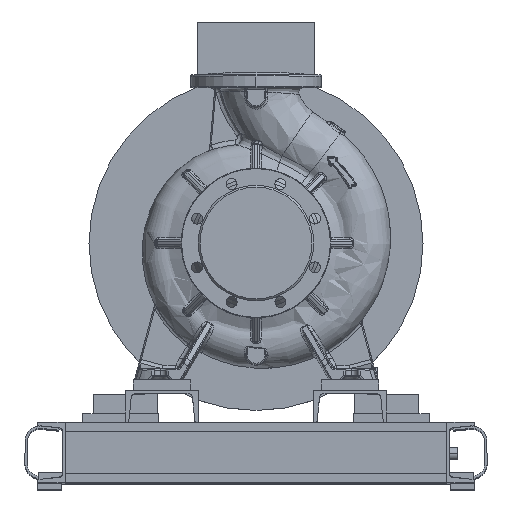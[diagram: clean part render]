
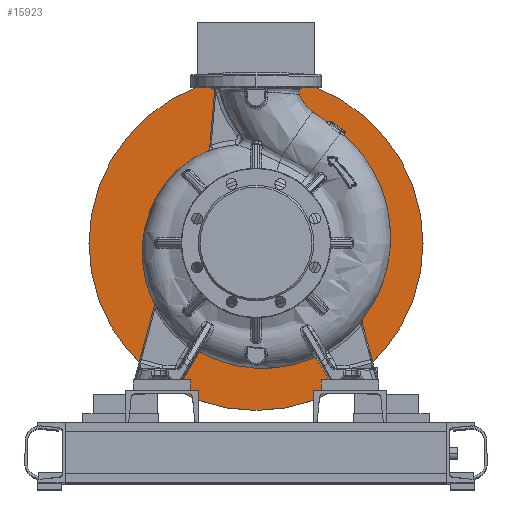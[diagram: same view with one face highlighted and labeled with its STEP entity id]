
A CAD part, top view. The second image highlights one B-rep face of the part: STEP entity #15923.
In plain terms, the highlighted planar face has unit normal (0, 0, 1).
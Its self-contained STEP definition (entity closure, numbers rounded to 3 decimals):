
#794 = AXIS2_PLACEMENT_3D ( 'NONE', #44074, #67471, #52612 ) ;
#1221 = DIRECTION ( 'NONE',  ( 0., 0., 1. ) ) ;
#3005 = AXIS2_PLACEMENT_3D ( 'NONE', #67443, #29864, #15737 ) ;
#7964 = ORIENTED_EDGE ( 'NONE', *, *, #56087, .T. ) ;
#12397 = ORIENTED_EDGE ( 'NONE', *, *, #25517, .F. ) ;
#15737 = DIRECTION ( 'NONE',  ( 1., 0., 0. ) ) ;
#15923 = ADVANCED_FACE ( 'NONE', ( #97146, #34674 ), #32775, .F. ) ;
#19803 = DIRECTION ( 'NONE',  ( 0., 0., 1. ) ) ;
#23967 = CARTESIAN_POINT ( 'NONE',  ( 0., 0., -274.8 ) ) ;
#25401 = CIRCLE ( 'NONE', #67603, 125. ) ;
#25517 = EDGE_CURVE ( 'NONE', #43477, #95824, #56553, .T. ) ;
#29803 = VERTEX_POINT ( 'NONE', #41857 ) ;
#29864 = DIRECTION ( 'NONE',  ( 0., 0., 1. ) ) ;
#32775 = PLANE ( 'NONE',  #50075 ) ;
#34674 = FACE_OUTER_BOUND ( 'NONE', #52764, .T. ) ;
#41713 = CIRCLE ( 'NONE', #794, 275. ) ;
#41839 = CARTESIAN_POINT ( 'NONE',  ( -125., 0., -274.8 ) ) ;
#41857 = CARTESIAN_POINT ( 'NONE',  ( -275., 0., -274.8 ) ) ;
#43477 = VERTEX_POINT ( 'NONE', #52857 ) ;
#43579 = AXIS2_PLACEMENT_3D ( 'NONE', #72794, #19803, #72455 ) ;
#44074 = CARTESIAN_POINT ( 'NONE',  ( 0., 0., -274.8 ) ) ;
#50075 = AXIS2_PLACEMENT_3D ( 'NONE', #93403, #71642, #70336 ) ;
#52612 = DIRECTION ( 'NONE',  ( 1., 0., 0. ) ) ;
#52764 = EDGE_LOOP ( 'NONE', ( #7964, #85891 ) ) ;
#52857 = CARTESIAN_POINT ( 'NONE',  ( 125., 0., -274.8 ) ) ;
#53737 = EDGE_CURVE ( 'NONE', #95824, #43477, #25401, .T. ) ;
#56087 = EDGE_CURVE ( 'NONE', #75271, #29803, #41713, .T. ) ;
#56553 = CIRCLE ( 'NONE', #43579, 125. ) ;
#61436 = DIRECTION ( 'NONE',  ( 1., 0., 0. ) ) ;
#61643 = EDGE_CURVE ( 'NONE', #29803, #75271, #70243, .T. ) ;
#67443 = CARTESIAN_POINT ( 'NONE',  ( 0., 0., -274.8 ) ) ;
#67471 = DIRECTION ( 'NONE',  ( 0., 0., 1. ) ) ;
#67603 = AXIS2_PLACEMENT_3D ( 'NONE', #23967, #1221, #61436 ) ;
#70243 = CIRCLE ( 'NONE', #3005, 275. ) ;
#70336 = DIRECTION ( 'NONE',  ( -1., 0., 0. ) ) ;
#71642 = DIRECTION ( 'NONE',  ( 0., 0., -1. ) ) ;
#72455 = DIRECTION ( 'NONE',  ( 1., 0., 0. ) ) ;
#72794 = CARTESIAN_POINT ( 'NONE',  ( 0., 0., -274.8 ) ) ;
#75271 = VERTEX_POINT ( 'NONE', #95796 ) ;
#81563 = EDGE_LOOP ( 'NONE', ( #12397, #82856 ) ) ;
#82856 = ORIENTED_EDGE ( 'NONE', *, *, #53737, .F. ) ;
#85891 = ORIENTED_EDGE ( 'NONE', *, *, #61643, .T. ) ;
#93403 = CARTESIAN_POINT ( 'NONE',  ( 0., 125., -274.8 ) ) ;
#95796 = CARTESIAN_POINT ( 'NONE',  ( 275., 0., -274.8 ) ) ;
#95824 = VERTEX_POINT ( 'NONE', #41839 ) ;
#97146 = FACE_BOUND ( 'NONE', #81563, .T. ) ;
